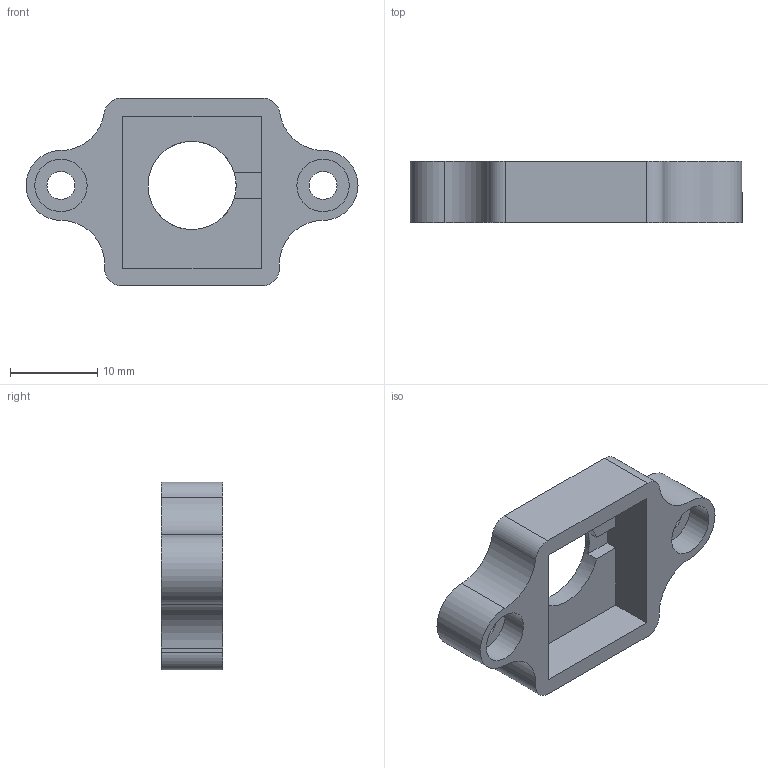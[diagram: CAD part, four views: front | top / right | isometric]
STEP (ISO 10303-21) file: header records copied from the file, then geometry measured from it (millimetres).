
FILE_DESCRIPTION(/* description */ (''),/* implementation_level */ '2;1');
FILE_NAME(/* name */ '6-12-2 Joy poti holder.step',/* time_stamp */ '2025-05-10T22:37:25+02:00',/* author */ (''),/* organization */ (''),/* preprocessor_version */ 'ST-DEVELOPER v20.1',/* originating_system */ 'Autodesk Translation Framework v14.4.0.0',/* authorisation */ '');
FILE_SCHEMA (('AUTOMOTIVE_DESIGN { 1 0 10303 214 3 1 1 }'));
Length unit declared in the file: millimetre
Products named in the file (1): 6-12-2 Joy poti holder
Bounding box: 38 x 7 x 21.5 mm (x, y, z)
Volume: 2257.4 mm3; surface area: 2265.3 mm2
Topology: 1 solids, 1 shells, 32 faces, 84 edges, 56 vertices
Faces by surface type: plane 17, cylinder 15
Full cylindrical faces by diameter (mm): 3.2 x2, 6 x2, 10.1 x1
Entity records: 1053 total; most frequent: DIRECTION 183, CARTESIAN_POINT 173, ORIENTED_EDGE 168, EDGE_CURVE 84, AXIS2_PLACEMENT_3D 66, VERTEX_POINT 56, LINE 51, VECTOR 51
